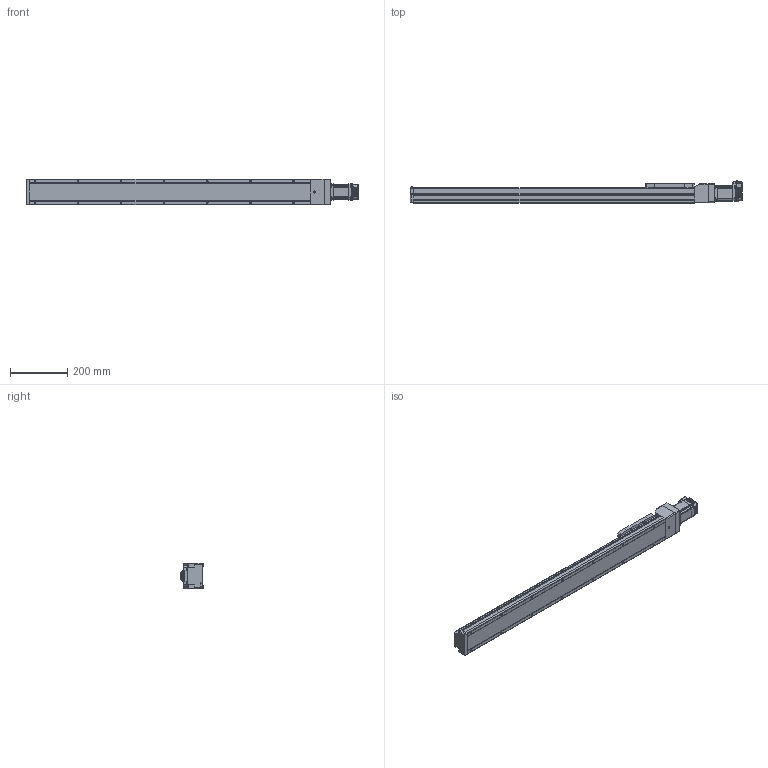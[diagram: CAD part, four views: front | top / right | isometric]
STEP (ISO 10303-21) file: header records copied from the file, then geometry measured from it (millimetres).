
FILE_DESCRIPTION (( 'STEP AP214' ), '1' );
FILE_NAME ('LEFS3(+)-40NM1仩-800-23L.STEP', '2023-06-02T05:18:51', ( '' ), ( '' ), 'SwSTEP 2.0', 'SolidWorks 2019', '' );
FILE_SCHEMA (( 'AUTOMOTIVE_DESIGN' ));
Length unit declared in the file: millimetre
Products named in the file (5): LEFS3(+)-40NM1_Motor Flange; LEFS3(+)-40NM1仩-800-23L; LEFS3(+)-40NM1_TABLE; CM3(+)-23L50A_4-M4; LEFS3(+)-40NM1?_BODY_800
Assembly tree (4 placements, depth 2):
  LEFS3(+)-40NM1仩-800-23L
    LEFS3(+)-40NM1?_BODY_800
    LEFS3(+)-40NM1_TABLE
    LEFS3(+)-40NM1_Motor Flange
    CM3(+)-23L50A_4-M4
Bounding box: 1157.6 x 76.75 x 90 mm (x, y, z)
Volume: 4847531.5 mm3; surface area: 424272.9 mm2
Topology: 5 solids, 14 shells, 1662 faces, 4317 edges, 2672 vertices
Faces by surface type: plane 764, cylinder 527, bspline 133, cone 117, torus 74, sphere 47
Entity records: 56369 total; most frequent: CARTESIAN_POINT 14057, ORIENTED_EDGE 8484, DIRECTION 7922, EDGE_CURVE 4242, AXIS2_PLACEMENT_3D 2700, VERTEX_POINT 2672, VECTOR 2522, LINE 2522
